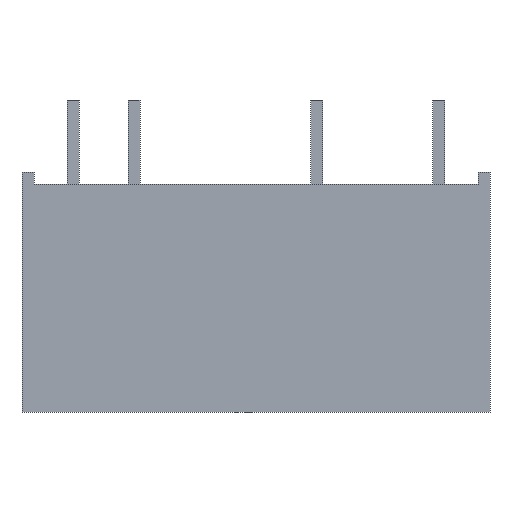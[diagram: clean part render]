
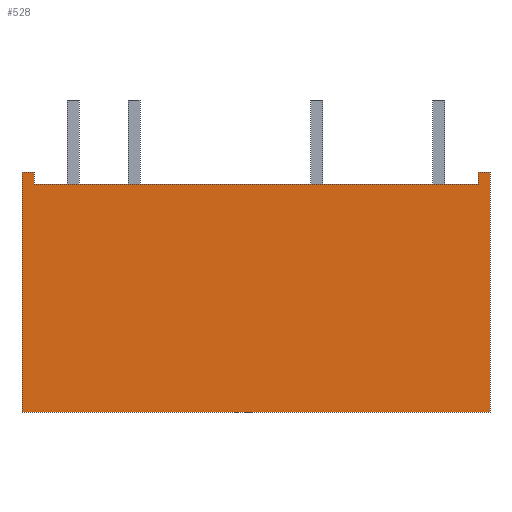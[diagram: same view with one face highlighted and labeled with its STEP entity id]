
A CAD part, front view. The second image highlights one B-rep face of the part: STEP entity #528.
In plain terms, the highlighted planar face has unit normal (0, -1, 0).
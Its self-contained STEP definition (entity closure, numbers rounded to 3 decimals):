
#48=ORIENTED_EDGE('',*,*,#191,.T.);
#49=ORIENTED_EDGE('',*,*,#164,.T.);
#50=ORIENTED_EDGE('',*,*,#192,.T.);
#51=ORIENTED_EDGE('',*,*,#193,.F.);
#52=ORIENTED_EDGE('',*,*,#194,.T.);
#53=ORIENTED_EDGE('',*,*,#195,.T.);
#54=ORIENTED_EDGE('',*,*,#196,.F.);
#55=ORIENTED_EDGE('',*,*,#197,.F.);
#164=EDGE_CURVE('',#236,#237,#284,.T.);
#191=EDGE_CURVE('',#262,#236,#311,.T.);
#192=EDGE_CURVE('',#237,#263,#312,.T.);
#193=EDGE_CURVE('',#264,#263,#313,.T.);
#194=EDGE_CURVE('',#264,#265,#314,.T.);
#195=EDGE_CURVE('',#265,#266,#315,.T.);
#196=EDGE_CURVE('',#267,#266,#316,.T.);
#197=EDGE_CURVE('',#262,#267,#317,.T.);
#236=VERTEX_POINT('',#736);
#237=VERTEX_POINT('',#737);
#262=VERTEX_POINT('',#791);
#263=VERTEX_POINT('',#793);
#264=VERTEX_POINT('',#795);
#265=VERTEX_POINT('',#797);
#266=VERTEX_POINT('',#799);
#267=VERTEX_POINT('',#801);
#284=LINE('',#735,#356);
#311=LINE('',#790,#383);
#312=LINE('',#792,#384);
#313=LINE('',#794,#385);
#314=LINE('',#796,#386);
#315=LINE('',#798,#387);
#316=LINE('',#800,#388);
#317=LINE('',#802,#389);
#356=VECTOR('',#603,1000.);
#383=VECTOR('',#634,1000.);
#384=VECTOR('',#635,1000.);
#385=VECTOR('',#636,1000.);
#386=VECTOR('',#637,1000.);
#387=VECTOR('',#638,1000.);
#388=VECTOR('',#639,1000.);
#389=VECTOR('',#640,1000.);
#434=EDGE_LOOP('',(#48,#49,#50,#51,#52,#53,#54,#55));
#468=FACE_BOUND('',#434,.T.);
#498=PLANE('',#571);
#528=ADVANCED_FACE('',(#468),#498,.F.);
#571=AXIS2_PLACEMENT_3D('',#789,#632,#633);
#603=DIRECTION('',(-1.,0.,0.));
#632=DIRECTION('',(0.,1.,0.));
#633=DIRECTION('',(0.,0.,1.));
#634=DIRECTION('',(0.,0.,-1.));
#635=DIRECTION('',(0.,0.,1.));
#636=DIRECTION('',(1.,0.,0.));
#637=DIRECTION('',(0.,0.,-1.));
#638=DIRECTION('',(1.,0.,0.));
#639=DIRECTION('',(0.,0.,-1.));
#640=DIRECTION('',(1.,0.,0.));
#735=CARTESIAN_POINT('',(19.,0.,9.5));
#736=CARTESIAN_POINT('',(19.,0.,9.5));
#737=CARTESIAN_POINT('',(0.5,0.,9.5));
#789=CARTESIAN_POINT('',(0.,0.,10.));
#790=CARTESIAN_POINT('',(19.,0.,10.));
#791=CARTESIAN_POINT('',(19.,0.,10.));
#792=CARTESIAN_POINT('',(0.5,0.,9.5));
#793=CARTESIAN_POINT('',(0.5,0.,10.));
#794=CARTESIAN_POINT('',(0.,0.,10.));
#795=CARTESIAN_POINT('',(0.,0.,10.));
#796=CARTESIAN_POINT('',(0.,0.,10.));
#797=CARTESIAN_POINT('',(0.,0.,0.));
#798=CARTESIAN_POINT('',(0.,0.,0.));
#799=CARTESIAN_POINT('',(19.5,0.,0.));
#800=CARTESIAN_POINT('',(19.5,0.,10.));
#801=CARTESIAN_POINT('',(19.5,0.,10.));
#802=CARTESIAN_POINT('',(0.,0.,10.));
